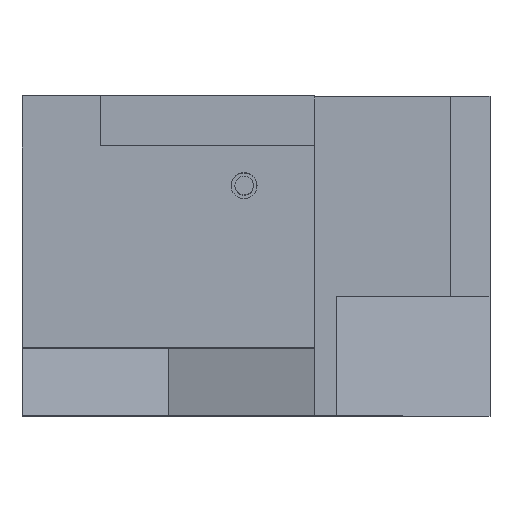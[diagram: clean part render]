
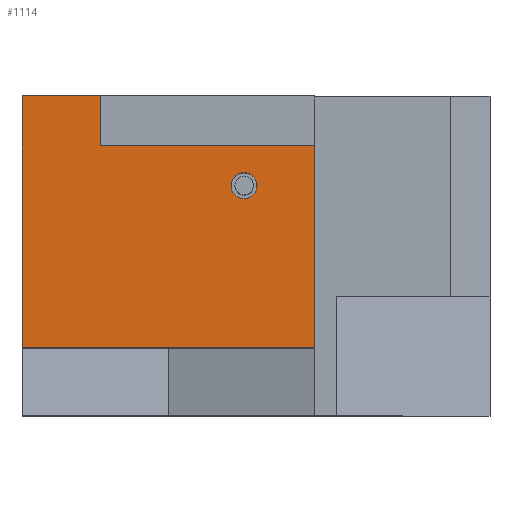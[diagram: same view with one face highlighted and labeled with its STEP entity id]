
A CAD part, top view. The second image highlights one B-rep face of the part: STEP entity #1114.
In plain terms, the highlighted planar face has unit normal (0, 0, 1).
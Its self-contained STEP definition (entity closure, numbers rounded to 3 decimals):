
#32 = PLANE('',#33);
#33 = AXIS2_PLACEMENT_3D('',#34,#35,#36);
#34 = CARTESIAN_POINT('',(0.,24.751,0.));
#35 = DIRECTION('',(-0.,1.,0.));
#36 = DIRECTION('',(0.,0.,1.));
#85 = VERTEX_POINT('',#86);
#86 = CARTESIAN_POINT('',(0.,24.751,29.781));
#100 = PLANE('',#101);
#101 = AXIS2_PLACEMENT_3D('',#102,#103,#104);
#102 = CARTESIAN_POINT('',(0.,0.,0.));
#103 = DIRECTION('',(1.,0.,-0.));
#104 = DIRECTION('',(0.,0.,1.));
#112 = EDGE_CURVE('',#85,#113,#115,.T.);
#113 = VERTEX_POINT('',#114);
#114 = CARTESIAN_POINT('',(6.05,24.751,
    29.781));
#115 = SURFACE_CURVE('',#116,(#120,#127),.PCURVE_S1.);
#116 = LINE('',#117,#118);
#117 = CARTESIAN_POINT('',(0.,24.751,29.781));
#118 = VECTOR('',#119,1.);
#119 = DIRECTION('',(1.,0.,-0.));
#120 = PCURVE('',#32,#121);
#121 = DEFINITIONAL_REPRESENTATION('',(#122),#126);
#122 = LINE('',#123,#124);
#123 = CARTESIAN_POINT('',(29.781,0.));
#124 = VECTOR('',#125,1.);
#125 = DIRECTION('',(0.,1.));
#126 = ( GEOMETRIC_REPRESENTATION_CONTEXT(2) 
PARAMETRIC_REPRESENTATION_CONTEXT() REPRESENTATION_CONTEXT('2D SPACE',''
  ) );
#127 = PCURVE('',#128,#133);
#128 = PLANE('',#129);
#129 = AXIS2_PLACEMENT_3D('',#130,#131,#132);
#130 = CARTESIAN_POINT('',(0.,0.,29.781));
#131 = DIRECTION('',(0.,0.,1.));
#132 = DIRECTION('',(1.,0.,-0.));
#133 = DEFINITIONAL_REPRESENTATION('',(#134),#138);
#134 = LINE('',#135,#136);
#135 = CARTESIAN_POINT('',(0.,24.751));
#136 = VECTOR('',#137,1.);
#137 = DIRECTION('',(1.,0.));
#138 = ( GEOMETRIC_REPRESENTATION_CONTEXT(2) 
PARAMETRIC_REPRESENTATION_CONTEXT() REPRESENTATION_CONTEXT('2D SPACE',''
  ) );
#156 = PLANE('',#157);
#157 = AXIS2_PLACEMENT_3D('',#158,#159,#160);
#158 = CARTESIAN_POINT('',(6.05,22.822,26.356
    ));
#159 = DIRECTION('',(1.,0.,0.));
#160 = DIRECTION('',(-0.,0.,1.));
#212 = PLANE('',#213);
#213 = AXIS2_PLACEMENT_3D('',#214,#215,#216);
#214 = CARTESIAN_POINT('',(22.655,24.751,
    29.781));
#215 = DIRECTION('',(-1.,0.,0.));
#216 = DIRECTION('',(0.,-1.,0.));
#773 = EDGE_CURVE('',#774,#85,#776,.T.);
#774 = VERTEX_POINT('',#775);
#775 = CARTESIAN_POINT('',(0.,5.247,29.781));
#776 = SURFACE_CURVE('',#777,(#781,#788),.PCURVE_S1.);
#777 = LINE('',#778,#779);
#778 = CARTESIAN_POINT('',(0.,0.,29.781));
#779 = VECTOR('',#780,1.);
#780 = DIRECTION('',(-0.,1.,0.));
#781 = PCURVE('',#100,#782);
#782 = DEFINITIONAL_REPRESENTATION('',(#783),#787);
#783 = LINE('',#784,#785);
#784 = CARTESIAN_POINT('',(29.781,0.));
#785 = VECTOR('',#786,1.);
#786 = DIRECTION('',(0.,-1.));
#787 = ( GEOMETRIC_REPRESENTATION_CONTEXT(2) 
PARAMETRIC_REPRESENTATION_CONTEXT() REPRESENTATION_CONTEXT('2D SPACE',''
  ) );
#788 = PCURVE('',#128,#789);
#789 = DEFINITIONAL_REPRESENTATION('',(#790),#794);
#790 = LINE('',#791,#792);
#791 = CARTESIAN_POINT('',(0.,0.));
#792 = VECTOR('',#793,1.);
#793 = DIRECTION('',(0.,1.));
#794 = ( GEOMETRIC_REPRESENTATION_CONTEXT(2) 
PARAMETRIC_REPRESENTATION_CONTEXT() REPRESENTATION_CONTEXT('2D SPACE',''
  ) );
#812 = PLANE('',#813);
#813 = AXIS2_PLACEMENT_3D('',#814,#815,#816);
#814 = CARTESIAN_POINT('',(11.327,5.247,
    23.138));
#815 = DIRECTION('',(-0.,-1.,-0.));
#816 = DIRECTION('',(0.,0.,-1.));
#967 = EDGE_CURVE('',#968,#970,#972,.T.);
#968 = VERTEX_POINT('',#969);
#969 = CARTESIAN_POINT('',(22.655,20.893,
    29.781));
#970 = VERTEX_POINT('',#971);
#971 = CARTESIAN_POINT('',(22.655,5.247,
    29.781));
#972 = SURFACE_CURVE('',#973,(#977,#984),.PCURVE_S1.);
#973 = LINE('',#974,#975);
#974 = CARTESIAN_POINT('',(22.655,24.751,
    29.781));
#975 = VECTOR('',#976,1.);
#976 = DIRECTION('',(0.,-1.,0.));
#977 = PCURVE('',#212,#978);
#978 = DEFINITIONAL_REPRESENTATION('',(#979),#983);
#979 = LINE('',#980,#981);
#980 = CARTESIAN_POINT('',(0.,0.));
#981 = VECTOR('',#982,1.);
#982 = DIRECTION('',(1.,0.));
#983 = ( GEOMETRIC_REPRESENTATION_CONTEXT(2) 
PARAMETRIC_REPRESENTATION_CONTEXT() REPRESENTATION_CONTEXT('2D SPACE',''
  ) );
#984 = PCURVE('',#128,#985);
#985 = DEFINITIONAL_REPRESENTATION('',(#986),#990);
#986 = LINE('',#987,#988);
#987 = CARTESIAN_POINT('',(22.655,24.751));
#988 = VECTOR('',#989,1.);
#989 = DIRECTION('',(0.,-1.));
#990 = ( GEOMETRIC_REPRESENTATION_CONTEXT(2) 
PARAMETRIC_REPRESENTATION_CONTEXT() REPRESENTATION_CONTEXT('2D SPACE',''
  ) );
#1008 = PLANE('',#1009);
#1009 = AXIS2_PLACEMENT_3D('',#1010,#1011,#1012);
#1010 = CARTESIAN_POINT('',(22.655,20.893,
    29.781));
#1011 = DIRECTION('',(-0.,-1.,-0.));
#1012 = DIRECTION('',(0.,0.,-1.));
#1114 = ADVANCED_FACE('f007',(#1115,#1185),#128,.T.);
#1115 = FACE_BOUND('',#1116,.T.);
#1116 = EDGE_LOOP('',(#1117,#1118,#1119,#1140,#1141,#1164));
#1117 = ORIENTED_EDGE('',*,*,#112,.F.);
#1118 = ORIENTED_EDGE('',*,*,#773,.F.);
#1119 = ORIENTED_EDGE('',*,*,#1120,.F.);
#1120 = EDGE_CURVE('',#970,#774,#1121,.T.);
#1121 = SURFACE_CURVE('',#1122,(#1126,#1133),.PCURVE_S1.);
#1122 = LINE('',#1123,#1124);
#1123 = CARTESIAN_POINT('',(22.655,5.247,
    29.781));
#1124 = VECTOR('',#1125,1.);
#1125 = DIRECTION('',(-1.,0.,0.));
#1126 = PCURVE('',#128,#1127);
#1127 = DEFINITIONAL_REPRESENTATION('',(#1128),#1132);
#1128 = LINE('',#1129,#1130);
#1129 = CARTESIAN_POINT('',(22.655,5.247));
#1130 = VECTOR('',#1131,1.);
#1131 = DIRECTION('',(-1.,0.));
#1132 = ( GEOMETRIC_REPRESENTATION_CONTEXT(2) 
PARAMETRIC_REPRESENTATION_CONTEXT() REPRESENTATION_CONTEXT('2D SPACE',''
  ) );
#1133 = PCURVE('',#812,#1134);
#1134 = DEFINITIONAL_REPRESENTATION('',(#1135),#1139);
#1135 = LINE('',#1136,#1137);
#1136 = CARTESIAN_POINT('',(-6.643,11.327));
#1137 = VECTOR('',#1138,1.);
#1138 = DIRECTION('',(0.,-1.));
#1139 = ( GEOMETRIC_REPRESENTATION_CONTEXT(2) 
PARAMETRIC_REPRESENTATION_CONTEXT() REPRESENTATION_CONTEXT('2D SPACE',''
  ) );
#1140 = ORIENTED_EDGE('',*,*,#967,.F.);
#1141 = ORIENTED_EDGE('',*,*,#1142,.T.);
#1142 = EDGE_CURVE('',#968,#1143,#1145,.T.);
#1143 = VERTEX_POINT('',#1144);
#1144 = CARTESIAN_POINT('',(6.05,20.893,
    29.781));
#1145 = SURFACE_CURVE('',#1146,(#1150,#1157),.PCURVE_S1.);
#1146 = LINE('',#1147,#1148);
#1147 = CARTESIAN_POINT('',(22.655,20.893,
    29.781));
#1148 = VECTOR('',#1149,1.);
#1149 = DIRECTION('',(-1.,0.,0.));
#1150 = PCURVE('',#128,#1151);
#1151 = DEFINITIONAL_REPRESENTATION('',(#1152),#1156);
#1152 = LINE('',#1153,#1154);
#1153 = CARTESIAN_POINT('',(22.655,20.893));
#1154 = VECTOR('',#1155,1.);
#1155 = DIRECTION('',(-1.,0.));
#1156 = ( GEOMETRIC_REPRESENTATION_CONTEXT(2) 
PARAMETRIC_REPRESENTATION_CONTEXT() REPRESENTATION_CONTEXT('2D SPACE',''
  ) );
#1157 = PCURVE('',#1008,#1158);
#1158 = DEFINITIONAL_REPRESENTATION('',(#1159),#1163);
#1159 = LINE('',#1160,#1161);
#1160 = CARTESIAN_POINT('',(0.,0.));
#1161 = VECTOR('',#1162,1.);
#1162 = DIRECTION('',(0.,-1.));
#1163 = ( GEOMETRIC_REPRESENTATION_CONTEXT(2) 
PARAMETRIC_REPRESENTATION_CONTEXT() REPRESENTATION_CONTEXT('2D SPACE',''
  ) );
#1164 = ORIENTED_EDGE('',*,*,#1165,.F.);
#1165 = EDGE_CURVE('',#113,#1143,#1166,.T.);
#1166 = SURFACE_CURVE('',#1167,(#1171,#1178),.PCURVE_S1.);
#1167 = LINE('',#1168,#1169);
#1168 = CARTESIAN_POINT('',(6.05,24.751,
    29.781));
#1169 = VECTOR('',#1170,1.);
#1170 = DIRECTION('',(0.,-1.,0.));
#1171 = PCURVE('',#128,#1172);
#1172 = DEFINITIONAL_REPRESENTATION('',(#1173),#1177);
#1173 = LINE('',#1174,#1175);
#1174 = CARTESIAN_POINT('',(6.05,24.751));
#1175 = VECTOR('',#1176,1.);
#1176 = DIRECTION('',(0.,-1.));
#1177 = ( GEOMETRIC_REPRESENTATION_CONTEXT(2) 
PARAMETRIC_REPRESENTATION_CONTEXT() REPRESENTATION_CONTEXT('2D SPACE',''
  ) );
#1178 = PCURVE('',#156,#1179);
#1179 = DEFINITIONAL_REPRESENTATION('',(#1180),#1184);
#1180 = LINE('',#1181,#1182);
#1181 = CARTESIAN_POINT('',(3.425,-1.929));
#1182 = VECTOR('',#1183,1.);
#1183 = DIRECTION('',(0.,1.));
#1184 = ( GEOMETRIC_REPRESENTATION_CONTEXT(2) 
PARAMETRIC_REPRESENTATION_CONTEXT() REPRESENTATION_CONTEXT('2D SPACE',''
  ) );
#1185 = FACE_BOUND('',#1186,.T.);
#1186 = EDGE_LOOP('',(#1187));
#1187 = ORIENTED_EDGE('',*,*,#1188,.F.);
#1188 = EDGE_CURVE('',#1189,#1189,#1191,.T.);
#1189 = VERTEX_POINT('',#1190);
#1190 = CARTESIAN_POINT('',(18.196,17.8,
    29.781));
#1191 = SURFACE_CURVE('',#1192,(#1197,#1204),.PCURVE_S1.);
#1192 = CIRCLE('',#1193,1.);
#1193 = AXIS2_PLACEMENT_3D('',#1194,#1195,#1196);
#1194 = CARTESIAN_POINT('',(17.196,17.8,
    29.781));
#1195 = DIRECTION('',(-0.,0.,1.));
#1196 = DIRECTION('',(1.,0.,0.));
#1197 = PCURVE('',#128,#1198);
#1198 = DEFINITIONAL_REPRESENTATION('',(#1199),#1203);
#1199 = CIRCLE('',#1200,1.);
#1200 = AXIS2_PLACEMENT_2D('',#1201,#1202);
#1201 = CARTESIAN_POINT('',(17.196,17.8));
#1202 = DIRECTION('',(1.,0.));
#1203 = ( GEOMETRIC_REPRESENTATION_CONTEXT(2) 
PARAMETRIC_REPRESENTATION_CONTEXT() REPRESENTATION_CONTEXT('2D SPACE',''
  ) );
#1204 = PCURVE('',#1205,#1210);
#1205 = CYLINDRICAL_SURFACE('',#1206,1.);
#1206 = AXIS2_PLACEMENT_3D('',#1207,#1208,#1209);
#1207 = CARTESIAN_POINT('',(17.196,17.8,
    29.781));
#1208 = DIRECTION('',(-0.,0.,1.));
#1209 = DIRECTION('',(1.,0.,0.));
#1210 = DEFINITIONAL_REPRESENTATION('',(#1211),#1215);
#1211 = LINE('',#1212,#1213);
#1212 = CARTESIAN_POINT('',(0.,0.));
#1213 = VECTOR('',#1214,1.);
#1214 = DIRECTION('',(1.,0.));
#1215 = ( GEOMETRIC_REPRESENTATION_CONTEXT(2) 
PARAMETRIC_REPRESENTATION_CONTEXT() REPRESENTATION_CONTEXT('2D SPACE',''
  ) );
